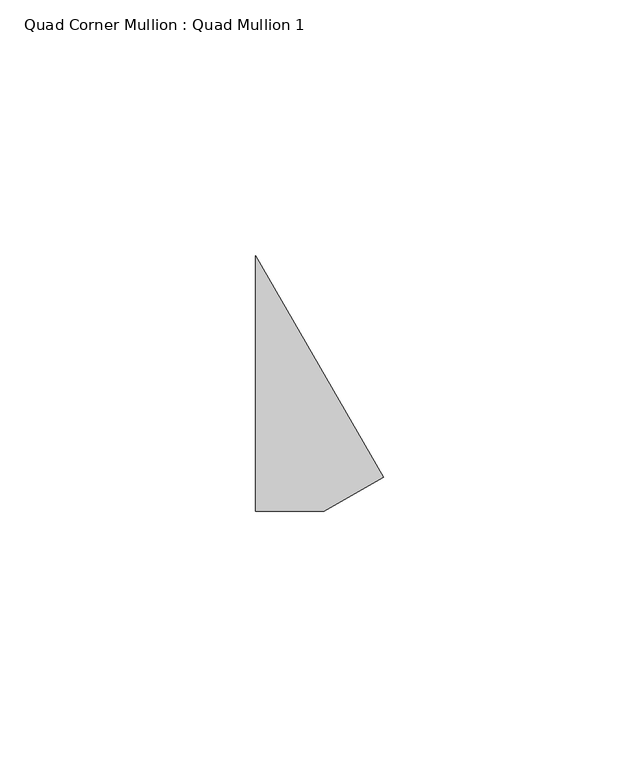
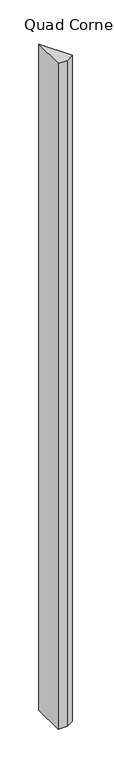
"""IFC4 building model written with IfcOpenShell, lengths in millimetres: member geometry, Quad Corner Mullion : Quad Mullion 1."""

from ifc_helpers import new_model, si_unit, frame, origin, place, context, project, spatial, polyline, outline, extrude, source, transform, mapped, element, save


def quad_corner_mullion_quad_mullion_1_626dd0ed(model_context):
    return source(origin(), model_context, "Body", "SweptSolid", [
        extrude(outline(polyline([(18.3012702, -18.3012702), (6.6987298, -25.0), (-6.6987298, -25.0), (-6.6987298, 25.0), (18.3012702, -18.3012702)])), frame((0.0, 0.0, -1050.0), z_axis=(0.0, 0.0, 1.0), x_axis=(1.0, 0.0, 0.0)), (0.0, 0.0, 1.0), 1050.0),
    ])


if __name__ == "__main__":
    model = new_model("IFC4")
    model_context = context("Model", 3, world=origin())
    ifc_project = project(units=[si_unit("LENGTHUNIT", "METRE", prefix="MILLI")], contexts=[model_context])
    site = spatial("IfcSite", under=ifc_project)
    building = spatial("IfcBuilding", under=site)
    placement = place(None, origin())
    quad_corner_mullion_quad_mullion_1_shape = quad_corner_mullion_quad_mullion_1_626dd0ed(model_context)
    element("IfcMember", 1, ObjectType="Quad Corner Mullion : Quad Mullion 1", at=placement, inside=building, context=model_context, shape_type="MappedRepresentation", body=[
        mapped(quad_corner_mullion_quad_mullion_1_shape, transform((0.0, 0.0, 0.0), x_axis=(1.0, 0.0, 0.0), y_axis=(0.0, 1.0, 0.0), z_axis=(0.0, 0.0, 1.0))),
    ])
    save(model, "model.ifc")
